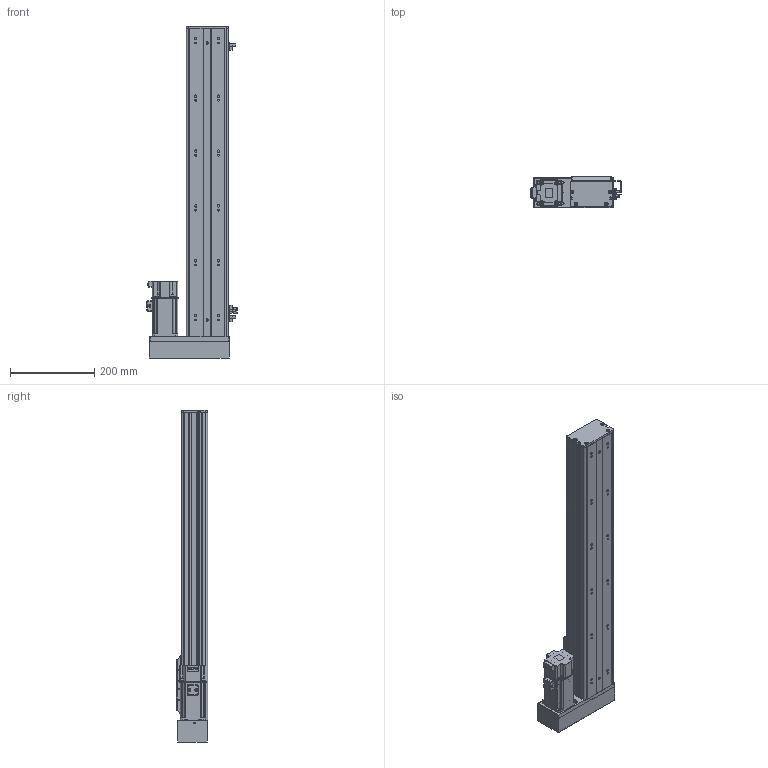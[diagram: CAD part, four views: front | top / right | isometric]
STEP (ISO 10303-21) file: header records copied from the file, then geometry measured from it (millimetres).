
FILE_DESCRIPTION (( 'STEP AP203' ), '1' );
FILE_NAME ('BOSW100-550-1610-1P-RM-M400W-O-S3（方程式2016）.step', '2020-10-10T07:18:19', ( '' ), ( '' ), 'SwSTEP 2.0', 'SolidWorks 2016', '' );
FILE_SCHEMA (( 'CONFIG_CONTROL_DESIGN' ));
Length unit declared in the file: millimetre
Products named in the file (14): 放大器内置U型微型光电传感器PM-L65; AIMS(W)-100-LM&RM-肮祭謫欶; BOSW100-550-1610-1P-RM-M400W-O-S3（方程式2016）; 新结构AIMSW-100-1P-宽&高轨共用-滑动座上组件; BOSW-100-1P-DM-550諦誧芞; BOSW-100-1P-DM-宽轨-侧板-550客户图纸; 俋境嫖覜嘐隅啣; S400W(SMA-L040); boS-100-LM&RM-三菱M400W马达板-宽轨; BOSW&TW-100-俋离覜茼え; BOSW-100-綴裔啣; BOSW&TW-100-1P-賑雄釱欶; BOSW&TW-100-詩湍揤沭(陔賦凳); BOSW-100-1P-DM-宽轨-钢带-550客户图纸
Assembly tree (19 placements, depth 2):
  BOSW100-550-1610-1P-RM-M400W-O-S3（方程式2016）
    BOSW-100-1P-DM-550諦誧芞
    BOSW-100-綴裔啣
    新结构AIMSW-100-1P-宽&高轨共用-滑动座上组件
    S400W(SMA-L040)
    BOSW&TW-100-詩湍揤沭(陔賦凳)  x2
    BOSW&TW-100-1P-賑雄釱欶
    BOSW-100-1P-DM-宽轨-侧板-550客户图纸  x2
    BOSW-100-1P-DM-宽轨-钢带-550客户图纸
    AIMS(W)-100-LM&RM-肮祭謫欶
    boS-100-LM&RM-三菱M400W马达板-宽轨
    俋境嫖覜嘐隅啣  x3
    放大器内置U型微型光电传感器PM-L65  x3
    BOSW&TW-100-俋离覜茼え
Bounding box: 213.4 x 75 x 786 mm (x, y, z)
Volume: 1821996.5 mm3; surface area: 867436.3 mm2
Topology: 19 solids, 20 shells, 2521 faces, 6651 edges, 4243 vertices
Faces by surface type: plane 1241, cylinder 794, bspline 271, cone 167, torus 36, sphere 12
Entity records: 69100 total; most frequent: CARTESIAN_POINT 20740, ORIENTED_EDGE 9842, DIRECTION 9525, EDGE_CURVE 4921, AXIS2_PLACEMENT_3D 3373, VERTEX_POINT 3145, LINE 2779, VECTOR 2779
